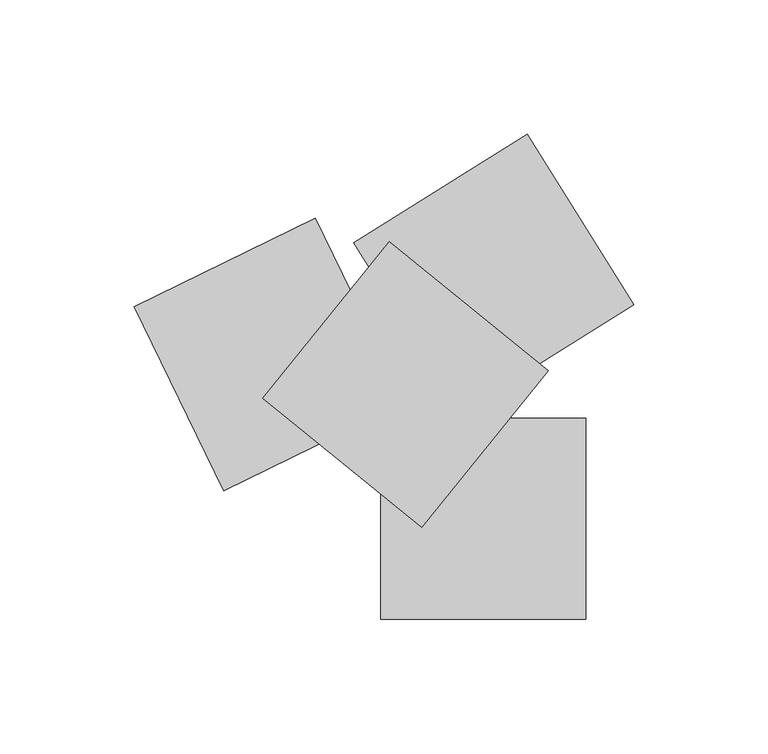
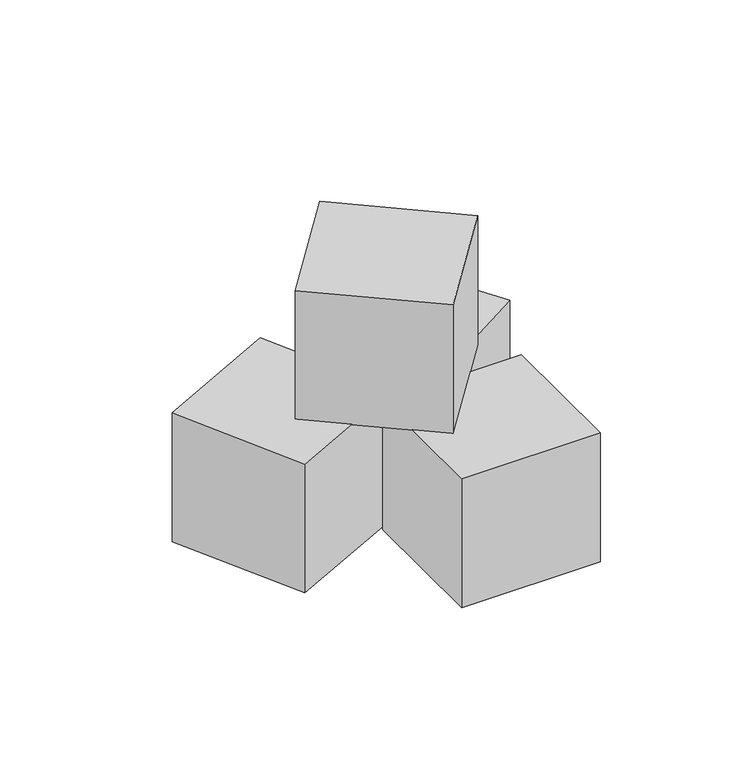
"""IFC4 building model written with IfcOpenShell, lengths in millimetres: furniture geometry, Кубики_world_of_REVIT : Кубики_world_of_REVIT."""

from ifc_helpers import new_model, si_unit, frame, origin, origin_with_axes, place, context, project, spatial, polyline, outline, extrude, source, transform, mapped, element, save


def furniture_eab1c3ee(model_context):
    return source(origin(), model_context, "Body", "SweptSolid", [
        extrude(outline(polyline([(160.0, 37.5), (160.0, -37.5), (83.7563445, -37.5), (83.7563445, 37.5), (160.0, 37.5)])), origin_with_axes(), (0.0, 0.0, 1.0), 75.0),
        extrude(outline(polyline([(92.6512131, 43.3402951), (25.2416597, 10.462459), (-8.181359, 78.9898027), (59.2281944, 111.8676387), (92.6512131, 43.3402951)])), origin_with_axes(), (0.0, 0.0, 1.0), 75.0),
        extrude(outline(polyline([(113.2843267, 39.2463589), (73.5403819, 102.8499661), (138.1986688, 143.252948), (177.9426136, 79.6493408), (113.2843267, 39.2463589)])), origin_with_axes(), (0.0, 0.0, 1.0), 75.0),
        extrude(outline(polyline([(39.7117777, 44.84787), (86.9108071, 103.1338171), (146.163256, 55.15213), (98.9642267, -3.1338171), (39.7117777, 44.84787)])), frame((0.0, 0.0, 75.0), z_axis=(0.0, 0.0, 1.0), x_axis=(1.0, 0.0, 0.0)), (0.0, 0.0, 1.0), 75.0),
    ])


if __name__ == "__main__":
    model = new_model("IFC4")
    model_context = context("Model", 3, world=origin())
    ifc_project = project(units=[si_unit("LENGTHUNIT", "METRE", prefix="MILLI")], contexts=[model_context])
    site = spatial("IfcSite", under=ifc_project)
    building = spatial("IfcBuilding", under=site)
    placement = place(None, origin())
    furniture_shape = furniture_eab1c3ee(model_context)
    element("IfcFurniture", 1, ObjectType="Кубики_world_of_REVIT : Кубики_world_of_REVIT", at=placement, inside=building, context=model_context, shape_type="MappedRepresentation", body=[
        mapped(furniture_shape, transform((0.0, 0.0, 0.0), x_axis=(1.0, 0.0, 0.0), y_axis=(0.0, 1.0, 0.0), z_axis=(0.0, 0.0, 1.0))),
    ])
    save(model, "model.ifc")
